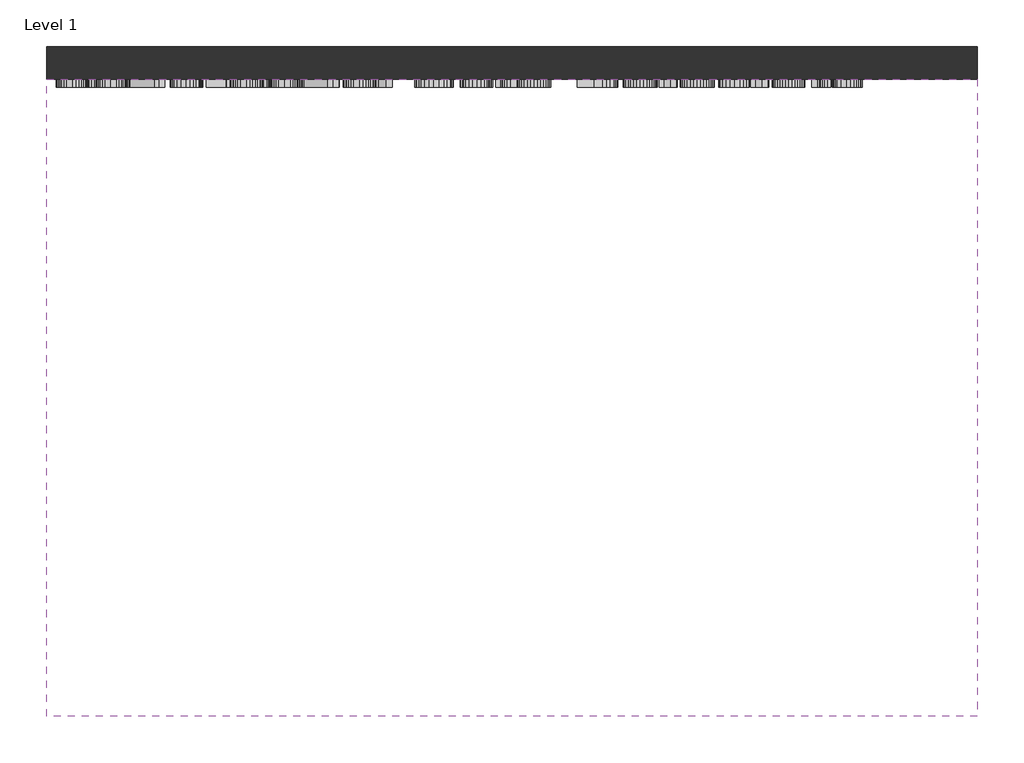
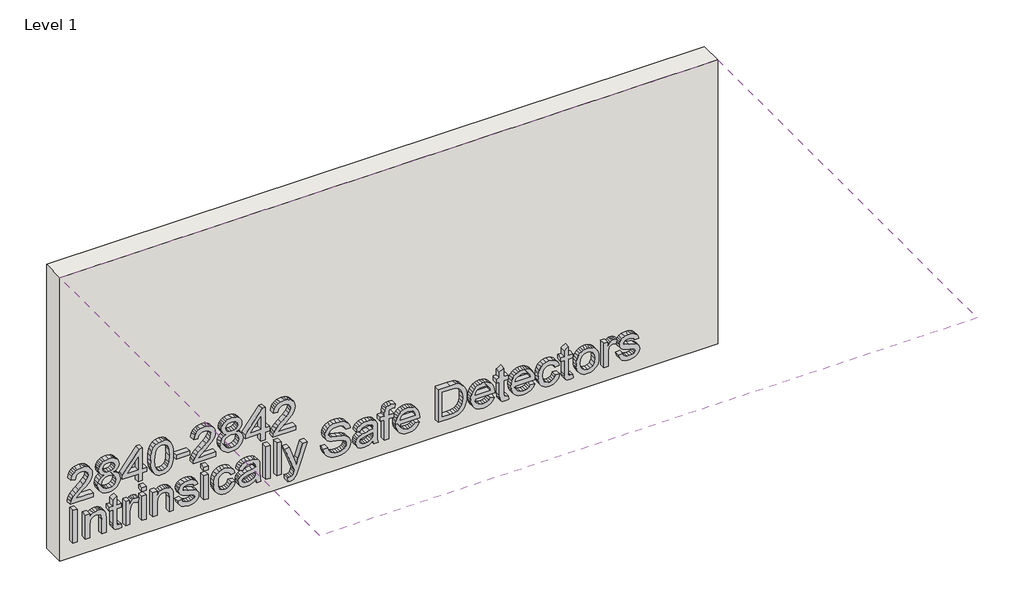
# One storey: 1 covering, 1 proxy, 1 wall.
"""IFC4 building model written with IfcOpenShell, lengths in millimetres."""

import ifcopenshell
import ifcopenshell.guid

model = None  # the IFC model being written
_history = None  # IfcOwnerHistory: only IFC2X3 demands one
_inside = {}  # id of a spatial element -> (the spatial element, [elements in it])
_under = {}  # id of a project, library or spatial element -> (it, [spatial elements below it])
_declared = {}  # id of a project -> (the project, [libraries it declares])
_typed = {}  # id of a type object -> (the type object, [elements of that type])
_made_of = {}  # id of a material, layer set ... -> (it, [elements and type objects made of it])


def new_model(schema):
    """Start an empty IFC model of exactly this schema.

    Asked for "IFC4X3", IfcOpenShell would pick the latest addendum, in which some entities
    have other attributes; the version numbers below select the first issue.
    IFC2X3 requires an IfcOwnerHistory on every rooted entity: one is made here for all.
    """
    global model, _history
    if schema == "IFC4X3":
        model = ifcopenshell.file(schema_version=(4, 3, 0, 0))
    else:
        model = ifcopenshell.file(schema=schema)
    _inside.clear()
    _under.clear()
    _declared.clear()
    _typed.clear()
    _made_of.clear()
    _history = None
    if model.schema == "IFC2X3":
        org = make("IfcOrganization", Name="unknown")
        user = make(
            "IfcPersonAndOrganization",
            ThePerson=make("IfcPerson", FamilyName="unknown"),
            TheOrganization=org,
        )
        app = make(
            "IfcApplication",
            ApplicationDeveloper=org,
            Version="unknown",
            ApplicationFullName="unknown",
            ApplicationIdentifier="unknown",
        )
        _history = make(
            "IfcOwnerHistory",
            OwningUser=user,
            OwningApplication=app,
            ChangeAction="ADDED",
            CreationDate=0,
        )
    return model


def make(cls, **values):
    """One entity of the class cls with the attributes given. An attribute that is None is left unset."""
    return model.create_entity(
        cls, **{name: value for name, value in values.items() if value is not None}
    )


def rooted(cls, **values):
    """An entity with a GlobalId (a new one), such as an element, a storey or a relation."""
    return make(cls, GlobalId=ifcopenshell.guid.new(), OwnerHistory=_history, **values)


def si_unit(unit_type, name, prefix=None):
    """IfcSIUnit, for example si_unit("LENGTHUNIT", "METRE", prefix="MILLI")."""
    return make("IfcSIUnit", UnitType=unit_type, Prefix=prefix, Name=name)


def assignment(units):
    """IfcUnitAssignment: the units of a project."""
    return None if units is None else make("IfcUnitAssignment", Units=units)


def point(xyz):
    """IfcCartesianPoint."""
    return None if xyz is None else make("IfcCartesianPoint", Coordinates=xyz)


def direction(xyz):
    """IfcDirection."""
    return None if xyz is None else make("IfcDirection", DirectionRatios=xyz)


def frame(location, z_axis=None, x_axis=None):
    """IfcAxis2Placement3D, a coordinate frame: its origin and axes. An axis left out is left unset."""
    return make(
        "IfcAxis2Placement3D",
        Location=point(location),
        Axis=direction(z_axis),
        RefDirection=direction(x_axis),
    )


def origin():
    """The frame at (0, 0, 0) with its axes left unset."""
    return frame((0.0, 0.0, 0.0))


def origin_with_axes():
    """The frame at (0, 0, 0) with the z axis (0, 0, 1) and the x axis (1, 0, 0) written out."""
    return frame((0.0, 0.0, 0.0), z_axis=(0.0, 0.0, 1.0), x_axis=(1.0, 0.0, 0.0))


def place(relative_to, where):
    """IfcLocalPlacement: puts the frame where relative to a parent placement (None: the world)."""
    return make(
        "IfcLocalPlacement", PlacementRelTo=relative_to, RelativePlacement=where
    )


def context(
    kind, dimensions, precision=None, world=None, true_north=None, identifier=None
):
    """IfcGeometricRepresentationContext, for example the 3D "Model" context."""
    return make(
        "IfcGeometricRepresentationContext",
        ContextIdentifier=identifier,
        ContextType=kind,
        CoordinateSpaceDimension=dimensions,
        Precision=precision,
        WorldCoordinateSystem=world,
        TrueNorth=true_north,
    )


def project(units=None, contexts=None):
    """IfcProject with its units and contexts."""
    return rooted(
        "IfcProject",
        Name="project",
        RepresentationContexts=contexts,
        UnitsInContext=assignment(units),
    )


def spatial(cls, under=None, at=None, **own):
    """A site, building, storey or space (cls), placed at a placement, below another one or the project."""
    s = rooted(cls, ObjectPlacement=at, **own)
    if under is not None:
        _under.setdefault(under.id(), (under, []))[1].append(s)
    return s


def polyline(points):
    """IfcPolyline through the points."""
    return make("IfcPolyline", Points=[point(p) for p in points])


def outline(outer, holes=None, kind="AREA"):
    """IfcArbitraryClosedProfileDef: a profile drawn as a closed curve; with holes, ...WithVoids."""
    if holes is None:
        return make("IfcArbitraryClosedProfileDef", ProfileType=kind, OuterCurve=outer)
    return make(
        "IfcArbitraryProfileDefWithVoids",
        ProfileType=kind,
        OuterCurve=outer,
        InnerCurves=holes,
    )


def extrude(swept, where, along, depth):
    """IfcExtrudedAreaSolid: the profile swept, set in the frame where, extruded along a direction by depth."""
    return make(
        "IfcExtrudedAreaSolid",
        SweptArea=swept,
        Position=where,
        ExtrudedDirection=direction(along),
        Depth=depth,
    )


def shape(context_of_items, identifier, shape_type, items):
    """IfcShapeRepresentation: the items that make up one representation, for example the "Body"."""
    return make(
        "IfcShapeRepresentation",
        ContextOfItems=context_of_items,
        RepresentationIdentifier=identifier,
        RepresentationType=shape_type,
        Items=items,
    )


def made_of(thing, what):
    """Note that an element or type object is made of a material, layer set ...; save() writes the relation."""
    if what is not None:
        _made_of.setdefault(what.id(), (what, []))[1].append(thing)
    return thing


def element(
    cls,
    number,
    at=None,
    inside=None,
    cuts=None,
    type_object=None,
    material=None,
    context=None,
    identifier="Body",
    shape_type=None,
    held_by="IfcProductDefinitionShape",
    body=None,
    shapes=None,
    **own,
):
    """One element of the class cls, such as IfcWall. Its Tag is "e" and its number.

    at: its placement. inside: the storey or other place that contains it. cuts: it is an
    opening in that element (IfcRelVoidsElement). A single representation is given by context,
    identifier, shape_type and body (its items); several are given by shapes. held_by: the class
    of the entity that holds the representations. save() writes the other relations.
    """
    e = rooted(cls, Tag="e%d" % number, ObjectPlacement=at, **own)
    if body is not None:
        shapes = [shape(context, identifier, shape_type, body)]
    if shapes is not None:
        e.Representation = make(held_by, Representations=shapes)
    if inside is not None:
        _inside.setdefault(inside.id(), (inside, []))[1].append(e)
    if cuts is not None:
        rooted(
            "IfcRelVoidsElement", RelatingBuildingElement=cuts, RelatedOpeningElement=e
        )
    if type_object is not None:
        _typed.setdefault(type_object.id(), (type_object, []))[1].append(e)
    return made_of(e, material)


def aggregate(whole, parts):
    """IfcRelAggregates: a whole, such as a stair, and the parts it consists of."""
    return rooted("IfcRelAggregates", RelatingObject=whole, RelatedObjects=parts)


def save(model, path):
    """Write the relations noted so far, then the file.

    IfcRelAggregates (storeys below a building ...), IfcRelContainedInSpatialStructure (elements
    in a storey), IfcRelDefinesByType, IfcRelAssociatesMaterial and IfcRelDeclares: one each for
    every whole, place, type object, material and project.
    """
    for whole, parts in _under.values():
        aggregate(whole, parts)
    for where, things in _inside.values():
        rooted(
            "IfcRelContainedInSpatialStructure",
            RelatedElements=things,
            RelatingStructure=where,
        )
    for kind, things in _typed.values():
        rooted("IfcRelDefinesByType", RelatedObjects=things, RelatingType=kind)
    for what, things in _made_of.values():
        rooted("IfcRelAssociatesMaterial", RelatedObjects=things, RelatingMaterial=what)
    for by, libraries in _declared.values():
        rooted("IfcRelDeclares", RelatingContext=by, RelatedDefinitions=libraries)
    model.write(path)


model = new_model("IFC4")

# Units and contexts
model_context = context("Model", 3, world=origin())
ifc_project = project(units=[si_unit("LENGTHUNIT", "METRE", prefix="MILLI")], contexts=[model_context])

# Site, building, storey
site = spatial("IfcSite", under=ifc_project)
building = spatial("IfcBuilding", under=site)
storey = spatial("IfcBuildingStorey", under=building, Name="Level 1", Elevation=0.0)

# Proxy
placement = place(None, origin())
element("IfcBuildingElementProxy", 1, Name="300 mm Arial 2", ObjectType="300 mm Arial 2", at=placement, inside=storey, context=model_context, shape_type="SweptSolid", body=[
    extrude(outline(polyline([(569.6588764, -4264.0457239), (569.6588764, -4412.0078624), (588.8255283, -4395.0117142), (625.0619048, -4351.6752152), (654.0785972, -4318.9797028), (676.6757488, -4297.7069265), (695.6032774, -4284.3620071), (713.6111011, -4275.4500658), (731.3154221, -4270.4284765), (749.3324428, -4268.7546134), (766.4849408, -4270.3066156), (782.184305, -4274.9626221), (796.4305352, -4282.7226329), (809.2236316, -4293.5866481), (819.7818449, -4307.1132092), (827.3234258, -4322.8608579), (831.8483743, -4340.8295941), (833.3566905, -4361.0194178), (827.9304311, -4398.9020663), (821.1476068, -4414.6359194), (811.6516528, -4428.2314584), (799.5713278, -4439.4311658), (785.0353904, -4447.9775244), (748.5966788, -4457.110195), (743.8877893, -4419.4390787), (765.5376447, -4415.3647856), (781.9267876, -4403.5833647), (792.2458775, -4385.3272207), (795.6855742, -4361.8287582), (792.1631041, -4339.4523359), (781.5956938, -4321.7664089), (765.9147237, -4310.2608995), (747.0515744, -4306.4257297), (726.0087243, -4310.4908258), (704.377263, -4322.6861139), (677.7242124, -4347.0766902), (641.6165946, -4387.7276507), (618.5595906, -4415.2268298), (597.9490018, -4434.8901225), (578.258118, -4448.4833622), (557.9602289, -4457.7723826), (531.9877601, -4461.8190845), (531.9877601, -4264.0457239), (569.6588764, -4264.0457239)])), frame((0.0, 3097.8550077, 0.0), z_axis=(0.0, 1.0, 0.0), x_axis=(0.0, 0.0, 1.0)), (0.0, 0.0, 1.0), 50.0),
    extrude(outline(polyline([(697.9761163, -4171.4866139), (687.4914794, -4194.8103324), (670.6056958, -4212.1007862), (648.0913177, -4222.8061522), (620.7208973, -4226.3746076), (601.5703402, -4224.6731534), (584.0706535, -4219.5687907), (568.2218373, -4211.0615195), (554.0238916, -4199.15134), (542.3229449, -4184.4636513), (533.9651258, -4167.623853), (528.9504343, -4148.631945), (527.2788705, -4127.4879273), (528.9435365, -4106.3439096), (533.9375346, -4087.3520016), (542.2608648, -4070.5122033), (553.913527, -4055.8245146), (568.0126044, -4043.914335), (583.6751804, -4035.4070639), (600.9012548, -4030.3027012), (619.6908277, -4028.601247), (646.0403756, -4032.0317466), (668.4351921, -4042.3232454), (686.0291485, -4059.1998319), (697.9761163, -4082.3855947), (707.881339, -4062.8602578), (721.2630466, -4049.0186977), (737.6981747, -4040.768944), (756.7636591, -4038.0190261), (772.1595206, -4039.5641304), (786.3413715, -4044.1994436), (799.3092118, -4051.9249655), (811.0630416, -4062.7406961), (820.816513, -4076.090214), (827.7832783, -4091.4170977), (833.3566905, -4128.0029621), (827.912037, -4164.3680973), (821.1062201, -4179.529434), (811.5780764, -4192.6766168), (800.0495744, -4203.2992095), (787.2426824, -4210.8867756), (773.1574005, -4215.4393153), (757.7937287, -4216.9568285), (738.0936478, -4214.1701224), (721.3734112, -4205.8100041), (707.9089301, -4191.6557443), (697.9761163, -4171.4866139)]), holes=[polyline([(756.6900827, -4179.2857122), (771.5893035, -4175.8920008), (784.2076559, -4165.7108666), (792.8160946, -4149.367709), (795.6855742, -4127.4879273), (792.7517153, -4105.7461014), (783.9501385, -4089.3753526), (770.8443425, -4079.1114449), (754.9978255, -4075.6901424), (739.7307227, -4079.0010803), (727.0387939, -4088.9338942), (718.4855375, -4105.0839138), (715.634452, -4127.0464689), (718.5039316, -4149.5332559), (727.1123703, -4165.9315958), (740.2457575, -4175.9471831), (756.6900827, -4179.2857122)]), polyline([(622.0452725, -4188.7034913), (644.0262217, -4184.7211687), (661.9972571, -4172.7742009), (673.9718161, -4153.7271106), (677.9633357, -4128.4444205), (673.9166338, -4102.5087398), (661.7765279, -4082.8270531), (643.4560046, -4070.4110357), (620.8680501, -4066.2723633), (598.6571746, -4070.282277), (580.7321244, -4082.3120183), (568.8955212, -4101.5522466), (564.9499868, -4127.1936217), (566.826185, -4143.9322525), (572.4547795, -4160.1558485), (581.5138737, -4173.7031029), (593.6815706, -4182.4127092), (622.0452725, -4188.7034913)])]), frame((0.0, 3097.8550077, 0.0), z_axis=(0.0, 1.0, 0.0), x_axis=(0.0, 0.0, 1.0)), (0.0, 0.0, 1.0), 50.0),
    extrude(outline(polyline([(531.9877601, -3873.2078922), (531.9877601, -3835.5367759), (602.6211031, -3835.5367759), (602.6211031, -3797.8656596), (640.2922194, -3797.8656596), (640.2922194, -3835.5367759), (828.647801, -3835.5367759), (828.647801, -3863.7901132), (640.2922194, -4009.7656888), (602.6211031, -4009.7656888), (602.6211031, -3873.2078922), (531.9877601, -3873.2078922)]), holes=[polyline([(640.2922194, -3873.2078922), (640.2922194, -3963.4125574), (756.6900827, -3873.2078922), (640.2922194, -3873.2078922)])]), frame((0.0, 3097.8550077, 0.0), z_axis=(0.0, 1.0, 0.0), x_axis=(0.0, 0.0, 1.0)), (0.0, 0.0, 1.0), 50.0),
    extrude(outline(polyline([(680.2442041, -3764.9034328), (640.8026557, -3763.0272347), (606.9437166, -3757.3986401), (578.6673867, -3748.0176493), (555.9736661, -3734.884262), (543.4196931, -3721.1990518), (534.4525694, -3705.1593968), (529.0722952, -3686.7652971), (527.2788705, -3666.0167525), (531.4083459, -3635.5653204), (543.7967721, -3610.8712415), (564.5821048, -3591.7689689), (593.9022998, -3578.0929557), (632.281589, -3569.8707931), (680.2442041, -3567.1300722), (720.2053858, -3568.8407235), (751.0614882, -3573.9726774), (775.360094, -3581.8085638), (795.648786, -3591.6310131), (811.7896085, -3604.6356416), (823.6446058, -3622.0180659), (830.9286693, -3642.8033986), (833.3566905, -3666.0167525), (829.2548063, -3696.3026378), (816.9491535, -3720.9415344), (796.2465942, -3740.0713982), (766.9539904, -3753.8301848), (728.4827307, -3762.1351208), (680.2442041, -3764.9034328)]), holes=[polyline([(680.3177805, -3727.2323165), (738.8110177, -3722.6705798), (759.8906561, -3716.9684089), (775.5256409, -3708.9853696), (790.6455909, -3690.0394468), (795.6855742, -3666.4582109), (789.9650092, -3641.5525999), (772.8033141, -3621.8709131), (758.4421207, -3614.4029086), (738.2408006, -3609.0686197), (680.3177805, -3604.8011885), (621.1531586, -3609.2157725), (600.8897585, -3614.7340024), (586.8389655, -3622.4595243), (570.4222315, -3642.1779993), (564.9499868, -3666.0167525), (570.4038374, -3689.8555058), (586.7653891, -3709.5739808), (600.7931895, -3717.2995027), (621.0611881, -3722.8177326), (680.3177805, -3727.2323165)])]), frame((0.0, 3097.8550077, 0.0), z_axis=(0.0, 1.0, 0.0), x_axis=(0.0, 0.0, 1.0)), (0.0, 0.0, 1.0), 50.0),
    extrude(outline(polyline([(-3425.8633861, 3097.8550077), (-3543.5856245, 3097.8550077), (-3543.5856245, 3147.8550077), (-3425.8633861, 3147.8550077), (-3425.8633861, 3097.8550077)])), frame((0.0, 0.0, 621.4566613), z_axis=(0.0, 0.0, 1.0), x_axis=(1.0, 0.0, 0.0)), (0.0, 0.0, 1.0), 37.6711163),
    extrude(outline(polyline([(569.6588764, -3199.8366883), (569.6588764, -3347.7988267), (588.8255283, -3330.8026785), (625.0619048, -3287.4661795), (654.0785972, -3254.7706672), (676.6757488, -3233.4978908), (695.6032774, -3220.1529714), (713.6111011, -3211.2410301), (731.3154221, -3206.2194409), (749.3324428, -3204.5455778), (766.4849408, -3206.09758), (782.184305, -3210.7535865), (796.4305352, -3218.5135973), (809.2236316, -3229.3776125), (819.7818449, -3242.9041736), (827.3234258, -3258.6518222), (831.8483743, -3276.6205584), (833.3566905, -3296.8103822), (827.9304311, -3334.6930306), (821.1476068, -3350.4268837), (811.6516528, -3364.0224227), (799.5713278, -3375.2221302), (785.0353904, -3383.7684888), (748.5966788, -3392.9011593), (743.8877893, -3355.230043), (765.5376447, -3351.1557499), (781.9267876, -3339.374329), (792.2458775, -3321.118185), (795.6855742, -3297.6197226), (792.1631041, -3275.2433002), (781.5956938, -3257.5573733), (765.9147237, -3246.0518639), (747.0515744, -3242.2166941), (726.0087243, -3246.2817901), (704.377263, -3258.4770783), (677.7242124, -3282.8676546), (641.6165946, -3323.518615), (618.5595906, -3351.0177942), (597.9490018, -3370.6810868), (578.258118, -3384.2743265), (557.9602289, -3393.5633469), (531.9877601, -3397.6100489), (531.9877601, -3199.8366883), (569.6588764, -3199.8366883)])), frame((0.0, 3097.8550077, 0.0), z_axis=(0.0, 1.0, 0.0), x_axis=(0.0, 0.0, 1.0)), (0.0, 0.0, 1.0), 50.0),
    extrude(outline(polyline([(697.9761163, -3107.2775783), (687.4914794, -3130.6012968), (670.6056958, -3147.8917505), (648.0913177, -3158.5971166), (620.7208973, -3162.165572), (601.5703402, -3160.4641177), (584.0706535, -3155.359755), (568.2218373, -3146.8524839), (554.0238916, -3134.9423043), (542.3229449, -3120.2546156), (533.9651258, -3103.4148173), (528.9504343, -3084.4229093), (527.2788705, -3063.2788916), (528.9435365, -3042.134874), (533.9375346, -3023.142966), (542.2608648, -3006.3031676), (553.913527, -2991.615479), (568.0126044, -2979.7052994), (583.6751804, -2971.1980283), (600.9012548, -2966.0936656), (619.6908277, -2964.3922113), (646.0403756, -2967.8227109), (668.4351921, -2978.1142098), (686.0291485, -2994.9907963), (697.9761163, -3018.176559), (707.881339, -2998.6512221), (721.2630466, -2984.8096621), (737.6981747, -2976.5599083), (756.7636591, -2973.8099904), (772.1595206, -2975.3550948), (786.3413715, -2979.9904079), (799.3092118, -2987.7159298), (811.0630416, -2998.5316605), (820.816513, -3011.8811784), (827.7832783, -3027.208062), (833.3566905, -3063.7939264), (827.912037, -3100.1590617), (821.1062201, -3115.3203984), (811.5780764, -3128.4675812), (800.0495744, -3139.0901738), (787.2426824, -3146.67774), (773.1574005, -3151.2302796), (757.7937287, -3152.7477929), (738.0936478, -3149.9610868), (721.3734112, -3141.6009684), (707.9089301, -3127.4467087), (697.9761163, -3107.2775783)]), holes=[polyline([(756.6900827, -3115.0766766), (771.5893035, -3111.6829652), (784.2076559, -3101.5018309), (792.8160946, -3085.1586733), (795.6855742, -3063.2788916), (792.7517153, -3041.5370657), (783.9501385, -3025.1663169), (770.8443425, -3014.9024093), (754.9978255, -3011.4811067), (739.7307227, -3014.7920447), (727.0387939, -3024.7248586), (718.4855375, -3040.8748781), (715.634452, -3062.8374333), (718.5039316, -3085.3242202), (727.1123703, -3101.7225601), (740.2457575, -3111.7381475), (756.6900827, -3115.0766766)]), polyline([(622.0452725, -3124.4944556), (644.0262217, -3120.512133), (661.9972571, -3108.5651653), (673.9718161, -3089.518075), (677.9633357, -3064.2353848), (673.9166338, -3038.2997042), (661.7765279, -3018.6180174), (643.4560046, -3006.2020001), (620.8680501, -3002.0633276), (598.6571746, -3006.0732414), (580.7321244, -3018.1029826), (568.8955212, -3037.343211), (564.9499868, -3062.9845861), (566.826185, -3079.7232168), (572.4547795, -3095.9468128), (581.5138737, -3109.4940673), (593.6815706, -3118.2036735), (622.0452725, -3124.4944556)])]), frame((0.0, 3097.8550077, 0.0), z_axis=(0.0, 1.0, 0.0), x_axis=(0.0, 0.0, 1.0)), (0.0, 0.0, 1.0), 50.0),
    extrude(outline(polyline([(531.9877601, -2808.9988566), (531.9877601, -2771.3277403), (602.6211031, -2771.3277403), (602.6211031, -2733.656624), (640.2922194, -2733.656624), (640.2922194, -2771.3277403), (828.647801, -2771.3277403), (828.647801, -2799.5810775), (640.2922194, -2945.5566532), (602.6211031, -2945.5566532), (602.6211031, -2808.9988566), (531.9877601, -2808.9988566)]), holes=[polyline([(640.2922194, -2808.9988566), (640.2922194, -2899.2035218), (756.6900827, -2808.9988566), (640.2922194, -2808.9988566)])]), frame((0.0, 3097.8550077, 0.0), z_axis=(0.0, 1.0, 0.0), x_axis=(0.0, 0.0, 1.0)), (0.0, 0.0, 1.0), 50.0),
    extrude(outline(polyline([(569.6588764, -2507.6299261), (569.6588764, -2655.5920646), (588.8255283, -2638.5959164), (625.0619048, -2595.2594174), (654.0785972, -2562.5639051), (676.6757488, -2541.2911287), (695.6032774, -2527.9462093), (713.6111011, -2519.034268), (731.3154221, -2514.0126787), (749.3324428, -2512.3388157), (766.4849408, -2513.8908178), (782.184305, -2518.5468243), (796.4305352, -2526.3068352), (809.2236316, -2537.1708503), (819.7818449, -2550.6974115), (827.3234258, -2566.4450601), (831.8483743, -2584.4137963), (833.3566905, -2604.6036201), (827.9304311, -2642.4862685), (821.1476068, -2658.2201216), (811.6516528, -2671.8156606), (799.5713278, -2683.0153681), (785.0353904, -2691.5617267), (748.5966788, -2700.6943972), (743.8877893, -2663.0232809), (765.5376447, -2658.9489878), (781.9267876, -2647.1675669), (792.2458775, -2628.9114229), (795.6855742, -2605.4129604), (792.1631041, -2583.0365381), (781.5956938, -2565.3506112), (765.9147237, -2553.8451018), (747.0515744, -2550.009932), (726.0087243, -2554.075028), (704.377263, -2566.2703162), (677.7242124, -2590.6608924), (641.6165946, -2631.3118529), (618.5595906, -2658.811032), (597.9490018, -2678.4743247), (578.258118, -2692.0675644), (557.9602289, -2701.3565848), (531.9877601, -2705.4032867), (531.9877601, -2507.6299261), (569.6588764, -2507.6299261)])), frame((0.0, 3097.8550077, 0.0), z_axis=(0.0, 1.0, 0.0), x_axis=(0.0, 0.0, 1.0)), (0.0, 0.0, 1.0), 50.0),
    extrude(outline(polyline([(-4400.6035205, 3097.8550077), (-4438.2746368, 3097.8550077), (-4438.2746368, 3147.8550077), (-4400.6035205, 3147.8550077), (-4400.6035205, 3097.8550077)])), frame((0.0, 0.0, 166.0633065), z_axis=(0.0, 0.0, 1.0), x_axis=(1.0, 0.0, 0.0)), (0.0, 0.0, 1.0), 301.3689304),
    extrude(outline(polyline([(166.0633065, -4329.9701774), (166.0633065, -4292.2990611), (283.4912394, -4292.2990611), (318.2009056, -4288.0040388), (330.5755362, -4282.635261), (339.6300318, -4275.118972), (350.721674, -4256.311005), (354.418888, -4234.2472823), (352.7726161, -4220.3505399), (347.8338003, -4208.385178), (340.1358696, -4199.0501724), (330.2122528, -4193.0444988), (296.882144, -4188.7034913), (166.0633065, -4188.7034913), (166.0633065, -4151.032375), (301.9589155, -4151.032375), (338.3792331, -4153.0189378), (366.0807473, -4164.312915), (376.6205665, -4174.4112758), (384.9163054, -4188.5931267), (390.2965796, -4205.5984719), (392.0900044, -4224.1673156), (389.8643183, -4245.1457864), (383.1872601, -4263.4939009), (372.0588297, -4279.2116592), (356.4790272, -4292.2990611), (387.3811148, -4292.2990611), (387.3811148, -4329.9701774), (166.0633065, -4329.9701774)])), frame((0.0, 3097.8550077, 0.0), z_axis=(0.0, 1.0, 0.0), x_axis=(0.0, 0.0, 1.0)), (0.0, 0.0, 1.0), 50.0),
    extrude(outline(polyline([(197.4804289, -4019.1834679), (199.0255333, -4035.5910049), (201.563919, -4048.4300865), (208.4433124, -4054.8680214), (227.8674817, -4056.8545842), (349.7099985, -4056.8545842), (349.7099985, -4019.1834679), (387.3811148, -4019.1834679), (387.3811148, -4056.8545842), (463.3119586, -4056.8545842), (441.1654625, -4094.5257005), (387.3811148, -4094.5257005), (387.3811148, -4122.7790378), (349.7099985, -4122.7790378), (349.7099985, -4094.5257005), (226.7638357, -4094.5257005), (199.7796914, -4093.3852663), (184.0159479, -4089.9639638), (174.8372921, -4083.7467581), (167.6084109, -4074.2186144), (162.9179155, -4060.7357393), (161.354417, -4042.6543392), (164.9596605, -4014.4745784), (197.4804289, -4019.1834679)])), frame((0.0, 3097.8550077, 0.0), z_axis=(0.0, 1.0, 0.0), x_axis=(0.0, 0.0, 1.0)), (0.0, 0.0, 1.0), 50.0),
    extrude(outline(polyline([(166.0633065, -3981.5123516), (166.0633065, -3943.8412353), (282.3875934, -3943.8412353), (305.3434299, -3942.314525), (326.38628, -3937.7343942), (338.1217157, -3932.2805436), (346.9876717, -3924.1595486), (352.561084, -3914.107173), (354.418888, -3902.859181), (352.4875076, -3889.6154292), (346.6933661, -3876.3716774), (380.4649333, -3863.7901132), (389.1837366, -3882.8464005), (392.0900044, -3901.6083823), (390.2689885, -3913.8956409), (384.8059408, -3925.1528299), (373.6223282, -3936.3732308), (354.6396172, -3948.5501248), (387.3811148, -3948.5501248), (387.3811148, -3981.5123516), (166.0633065, -3981.5123516)])), frame((0.0, 3097.8550077, 0.0), z_axis=(0.0, 1.0, 0.0), x_axis=(0.0, 0.0, 1.0)), (0.0, 0.0, 1.0), 50.0),
    extrude(outline(polyline([(-3802.5745492, 3097.8550077), (-3840.2456655, 3097.8550077), (-3840.2456655, 3147.8550077), (-3802.5745492, 3147.8550077), (-3802.5745492, 3097.8550077)])), frame((0.0, 0.0, 429.7611207), z_axis=(0.0, 0.0, 1.0), x_axis=(1.0, 0.0, 0.0)), (0.0, 0.0, 1.0), 37.6711163),
    extrude(outline(polyline([(-3802.5745492, 3097.8550077), (-3840.2456655, 3097.8550077), (-3840.2456655, 3147.8550077), (-3802.5745492, 3147.8550077), (-3802.5745492, 3097.8550077)])), frame((0.0, 0.0, 166.0633065), z_axis=(0.0, 0.0, 1.0), x_axis=(1.0, 0.0, 0.0)), (0.0, 0.0, 1.0), 221.3178083),
    extrude(outline(polyline([(166.0633065, -3746.0678747), (166.0633065, -3708.3967584), (283.4912394, -3708.3967584), (318.2009056, -3704.1017361), (330.5755362, -3698.7329582), (339.6300318, -3691.2166692), (350.721674, -3672.4087022), (354.418888, -3650.3449796), (352.7726161, -3636.4482372), (347.8338003, -3624.4828753), (340.1358696, -3615.1478697), (330.2122528, -3609.1421961), (296.882144, -3604.8011885), (166.0633065, -3604.8011885), (166.0633065, -3567.1300722), (301.9589155, -3567.1300722), (338.3792331, -3569.116635), (366.0807473, -3580.4106123), (376.6205665, -3590.508973), (384.9163054, -3604.6908239), (390.2965796, -3621.6961692), (392.0900044, -3640.2650129), (389.8643183, -3661.2434837), (383.1872601, -3679.5915982), (372.0588297, -3695.3093564), (356.4790272, -3708.3967584), (387.3811148, -3708.3967584), (387.3811148, -3746.0678747), (166.0633065, -3746.0678747)])), frame((0.0, 3097.8550077, 0.0), z_axis=(0.0, 1.0, 0.0), x_axis=(0.0, 0.0, 1.0)), (0.0, 0.0, 1.0), 50.0),
    extrude(outline(polyline([(231.9877601, -3529.4589559), (201.2696135, -3519.1214719), (179.1599055, -3500.6170075), (165.8057891, -3472.8970992), (161.354417, -3434.9132832), (163.6628765, -3410.2284013), (170.5882551, -3388.2658462), (181.7442766, -3370.0832786), (196.7446649, -3356.7383592), (214.2190597, -3348.5437878), (232.7971004, -3345.8122639), (250.7681359, -3348.1391176), (265.538598, -3355.1196784), (277.145275, -3366.1929265), (285.6249549, -3380.7978417), (303.3568671, -3436.0905056), (311.3766946, -3468.5376975), (319.6908277, -3482.5907897), (330.6537112, -3487.0789501), (339.5564554, -3484.3750174), (347.2819773, -3476.2632194), (352.6346604, -3461.8422452), (354.418888, -3440.2107839), (352.5518869, -3421.2188759), (346.9508835, -3407.0646161), (338.0205481, -3397.6560341), (326.1655508, -3392.9011593), (330.8744404, -3355.230043), (349.9215307, -3360.2332382), (364.6827957, -3368.1794892), (375.9951671, -3380.1724423), (384.6955762, -3397.3157433), (390.2413973, -3418.6345049), (392.0900044, -3443.1538399), (387.4914794, -3475.5642436), (376.344655, -3499.5133615), (366.7153437, -3509.9796043), (354.8971346, -3517.9810377), (341.4234566, -3523.0578092), (326.8277384, -3524.7500664), (310.9168421, -3522.643942), (296.4406856, -3516.3255687), (284.1810181, -3505.9237053), (274.9195889, -3491.5671104), (256.4887009, -3434.8397068), (245.7465467, -3396.0649445), (238.425695, -3386.6287713), (228.8239749, -3383.4833802), (217.603574, -3386.6103772), (207.9282776, -3395.9913681), (201.2512194, -3411.8470821), (199.0255333, -3434.3982484), (201.4535545, -3457.2253262), (208.737618, -3474.3502331), (220.5834182, -3485.8465454), (236.6966496, -3491.7878396), (231.9877601, -3529.4589559)])), frame((0.0, 3097.8550077, 0.0), z_axis=(0.0, 1.0, 0.0), x_axis=(0.0, 0.0, 1.0)), (0.0, 0.0, 1.0), 50.0),
    extrude(outline(polyline([(-3265.7611418, 3097.8550077), (-3303.4322581, 3097.8550077), (-3303.4322581, 3147.8550077), (-3265.7611418, 3147.8550077), (-3265.7611418, 3097.8550077)])), frame((0.0, 0.0, 429.7611207), z_axis=(0.0, 0.0, 1.0), x_axis=(1.0, 0.0, 0.0)), (0.0, 0.0, 1.0), 37.6711163),
    extrude(outline(polyline([(-3265.7611418, 3097.8550077), (-3303.4322581, 3097.8550077), (-3303.4322581, 3147.8550077), (-3265.7611418, 3147.8550077), (-3265.7611418, 3097.8550077)])), frame((0.0, 0.0, 166.0633065), z_axis=(0.0, 0.0, 1.0), x_axis=(1.0, 0.0, 0.0)), (0.0, 0.0, 1.0), 221.3178083),
    extrude(outline(polyline([(246.1144287, -3067.9877812), (225.2371254, -3074.4165191), (210.5770279, -3086.0507871), (201.9134069, -3102.0444569), (199.0255333, -3121.5513997), (203.6516494, -3145.583291), (217.5299976, -3164.5568049), (241.6354654, -3176.8900488), (276.9429399, -3181.0011301), (311.7813648, -3176.7980783), (335.8040591, -3164.1889229), (349.7651808, -3144.8659211), (354.418888, -3120.5213301), (352.0552462, -3104.0310197), (344.9643208, -3090.1710655), (333.1828999, -3079.5300788), (316.7477717, -3072.6966707), (321.4566613, -3035.0255544), (351.4390439, -3045.280265), (373.6959046, -3063.536409), (387.4914794, -3088.9846461), (392.0900044, -3120.8156357), (388.7422782, -3147.4594892), (378.6990997, -3172.0615976), (361.9512719, -3192.6262012), (338.4895977, -3207.15754), (309.4361171, -3215.7935698), (275.9128703, -3218.6722464), (249.8553287, -3216.986887), (227.0121561, -3211.9308088), (207.3833524, -3203.5040119), (190.9689176, -3191.7064962), (178.0125736, -3177.1314714), (168.7580421, -3160.3721472), (163.2053233, -3141.4285237), (161.354417, -3120.3006009), (166.6611148, -3087.6694679), (182.5812081, -3060.5565649), (207.9006864, -3040.8196958), (241.4055391, -3030.3166649), (246.1144287, -3067.9877812)])), frame((0.0, 3097.8550077, 0.0), z_axis=(0.0, 1.0, 0.0), x_axis=(0.0, 0.0, 1.0)), (0.0, 0.0, 1.0), 50.0),
    extrude(outline(polyline([(194.3166437, -2856.087752), (166.0633065, -2846.6699729), (166.0633065, -2808.9988566), (197.7379463, -2816.5036493), (263.1841532, -2818.4166357), (310.0523194, -2818.4166357), (343.0145462, -2820.2560456), (357.1320178, -2824.7993883), (368.5823449, -2831.8075403), (377.8437741, -2842.3749506), (385.394552, -2857.5960681), (390.4161413, -2877.7835926), (392.0900044, -2903.2502237), (390.1954121, -2929.8021067), (384.5116353, -2952.9510813), (375.3329795, -2971.8786099), (362.9537503, -2985.7661553), (346.7669425, -2995.5242252), (326.1655508, -3002.0633276), (321.4566613, -2964.3922113), (337.1192372, -2956.9058127), (347.1716127, -2946.2188408), (352.6070692, -2930.5470678), (354.418888, -2908.1062661), (351.6965613, -2883.8628426), (343.529581, -2866.4620242), (332.5299093, -2858.68132), (315.7177022, -2856.087752), (307.3299927, -2856.3084812), (300.3402348, -2883.1270786), (294.3805464, -2921.6443235), (288.7151637, -2954.2386683), (276.3543287, -2980.6158073), (266.8629732, -2991.2200058), (254.7228674, -2999.5617301), (240.5410164, -3004.9695954), (224.9244257, -3006.7722172), (199.5957504, -3001.9989483), (179.2334819, -2987.6791416), (165.8241832, -2964.4565907), (161.354417, -2932.975089), (163.2122211, -2912.1069828), (168.7856333, -2892.6184341), (178.883994, -2874.0863786), (194.3166437, -2856.087752)]), holes=[polyline([(269.6588764, -2856.087752), (258.9902985, -2856.3084812), (242.0677267, -2857.7984032), (229.8540445, -2862.2681695), (217.9990472, -2872.3481362), (208.0386422, -2886.8426868), (201.2788105, -2904.7217517), (199.0255333, -2924.9552615), (201.0672784, -2944.03914), (207.1925136, -2957.8807), (216.3711694, -2966.2960007), (227.5731761, -2969.1011009), (242.0677267, -2963.9507529), (252.0005406, -2949.2722613), (258.1073817, -2916.8618576), (269.6588764, -2856.087752)])]), frame((0.0, 3097.8550077, 0.0), z_axis=(0.0, 1.0, 0.0), x_axis=(0.0, 0.0, 1.0)), (0.0, 0.0, 1.0), 50.0),
    extrude(outline(polyline([(-2728.9477344, 3097.8550077), (-2766.6188507, 3097.8550077), (-2766.6188507, 3147.8550077), (-2728.9477344, 3147.8550077), (-2728.9477344, 3097.8550077)])), frame((0.0, 0.0, 166.0633065), z_axis=(0.0, 0.0, 1.0), x_axis=(1.0, 0.0, 0.0)), (0.0, 0.0, 1.0), 301.3689304),
    extrude(outline(polyline([(-2634.7699437, 3097.8550077), (-2672.44106, 3097.8550077), (-2672.44106, 3147.8550077), (-2634.7699437, 3147.8550077), (-2634.7699437, 3097.8550077)])), frame((0.0, 0.0, 166.0633065), z_axis=(0.0, 0.0, 1.0), x_axis=(1.0, 0.0, 0.0)), (0.0, 0.0, 1.0), 301.3689304),
    extrude(outline(polyline([(81.3032948, -2578.2632692), (76.5944053, -2555.2338563), (78.7097268, -2539.3597482), (85.0556912, -2525.8768731), (95.9266041, -2514.2701961), (111.6167712, -2504.0246826), (160.7658058, -2484.011902), (387.3811148, -2406.9774123), (387.3811148, -2446.4143621), (258.7695693, -2490.0451668), (215.3594939, -2504.834023), (264.5085284, -2519.6228792), (387.3811148, -2562.0764614), (387.3811148, -2601.8077169), (166.8726469, -2521.7565947), (157.7491734, -2524.6996507), (130.010871, -2535.0003466), (118.4225881, -2545.96323), (114.2655216, -2563.842295), (117.5764596, -2582.9721587), (81.3032948, -2578.2632692)])), frame((0.0, 3097.8550077, 0.0), z_axis=(0.0, 1.0, 0.0), x_axis=(0.0, 0.0, 1.0)), (0.0, 0.0, 1.0), 50.0),
    extrude(outline(polyline([(269.6588764, -2267.4765597), (239.2350354, -2263.0067934), (212.1221323, -2251.2161755), (189.8652716, -2232.8496669), (174.0095576, -2208.6522287), (164.5182021, -2178.2743729), (161.354417, -2141.3666117), (164.2882759, -2111.3014557), (173.0898526, -2084.3816907), (187.179733, -2061.9960713), (205.978503, -2045.533352), (227.8214965, -2035.4074001), (251.0440474, -2032.0320828), (273.7607606, -2034.9659417), (293.6447824, -2043.7675184), (310.5121719, -2058.7495127), (324.178988, -2080.2246241), (332.9897618, -2105.3509644), (343.0881226, -2146.8848417), (353.7199123, -2187.1311319), (364.1309727, -2208.3947113), (375.7744379, -2217.389426), (390.2505944, -2220.3876643), (407.2283485, -2216.1570214), (421.520564, -2203.4650925), (431.2326486, -2181.5209315), (434.4700102, -2149.533592), (431.1958604, -2118.2820165), (421.3734112, -2095.7492443), (405.1498152, -2081.3282701), (382.6722253, -2074.4120886), (382.6722253, -2036.7409723), (407.6330186, -2040.9900093), (429.8346971, -2051.6769813), (448.1368263, -2068.5627649), (461.3989722, -2091.4082368), (469.4555879, -2119.2201156), (472.1411265, -2151.00512), (469.5751496, -2180.3437091), (461.8772188, -2206.8496069), (449.2220782, -2228.9317236), (431.7844716, -2244.9989698), (411.2106711, -2254.7938279), (389.1469484, -2258.0587806), (369.4100793, -2255.4192273), (351.6965613, -2247.5005673), (336.337488, -2234.2108303), (323.6639532, -2215.4580456), (314.6048591, -2192.4194356), (305.0859125, -2156.4129853), (290.7017265, -2101.5617799), (282.8934311, -2085.4853367), (273.5952137, -2075.957193), (262.6967096, -2071.2666976), (250.0875542, -2069.7031991), (237.147305, -2071.7909294), (224.8140611, -2078.0541204), (214.0719069, -2088.5847425), (205.9049266, -2103.4747662), (200.7453816, -2121.8504719), (199.0255333, -2142.8381397), (201.2972046, -2166.676893), (208.1122186, -2188.0140487), (218.6152495, -2205.4700494), (231.9509719, -2217.6653375), (248.753982, -2225.4828299), (269.6588764, -2229.8054434), (269.6588764, -2267.4765597)])), frame((0.0, 3097.8550077, 0.0), z_axis=(0.0, 1.0, 0.0), x_axis=(0.0, 0.0, 1.0)), (0.0, 0.0, 1.0), 50.0),
    extrude(outline(polyline([(194.3166437, -1838.9676117), (166.0633065, -1829.5498326), (166.0633065, -1791.8787163), (197.7379463, -1799.383509), (263.1841532, -1801.2964954), (310.0523194, -1801.2964954), (343.0145462, -1803.1359054), (357.1320178, -1807.679248), (368.5823449, -1814.6874), (377.8437741, -1825.2548103), (385.394552, -1840.4759279), (390.4161413, -1860.6634524), (392.0900044, -1886.1300835), (390.1954121, -1912.6819665), (384.5116353, -1935.830941), (375.3329795, -1954.7584697), (362.9537503, -1968.646015), (346.7669425, -1978.4040849), (326.1655508, -1984.9431874), (321.4566613, -1947.2720711), (337.1192372, -1939.7856725), (347.1716127, -1929.0987005), (352.6070692, -1913.4269275), (354.418888, -1890.9861258), (351.6965613, -1866.7427023), (343.529581, -1849.341884), (332.5299093, -1841.5611798), (315.7177022, -1838.9676117), (307.3299927, -1839.1883409), (300.3402348, -1866.0069383), (294.3805464, -1904.5241832), (288.7151637, -1937.118528), (276.3543287, -1963.4956671), (266.8629732, -1974.0998656), (254.7228674, -1982.4415898), (240.5410164, -1987.8494551), (224.9244257, -1989.6520769), (199.5957504, -1984.878808), (179.2334819, -1970.5590014), (165.8241832, -1947.3364504), (161.354417, -1915.8549487), (163.2122211, -1894.9868425), (168.7856333, -1875.4982938), (178.883994, -1856.9662383), (194.3166437, -1838.9676117)]), holes=[polyline([(269.6588764, -1838.9676117), (258.9902985, -1839.1883409), (242.0677267, -1840.678263), (229.8540445, -1845.1480292), (217.9990472, -1855.2279959), (208.0386422, -1869.7225465), (201.2788105, -1887.6016115), (199.0255333, -1907.8351212), (201.0672784, -1926.9189997), (207.1925136, -1940.7605598), (216.3711694, -1949.1758604), (227.5731761, -1951.9809606), (242.0677267, -1946.8306127), (252.0005406, -1932.1521211), (258.1073817, -1899.7417173), (269.6588764, -1838.9676117)])]), frame((0.0, 3097.8550077, 0.0), z_axis=(0.0, 1.0, 0.0), x_axis=(0.0, 0.0, 1.0)), (0.0, 0.0, 1.0), 50.0),
    extrude(outline(polyline([(166.0633065, -1740.0809314), (166.0633065, -1702.4098151), (349.7099985, -1702.4098151), (349.7099985, -1660.0298092), (387.3811148, -1660.0298092), (387.3811148, -1702.4098151), (404.8922978, -1702.4098151), (419.2580897, -1700.6715727), (428.2160163, -1695.4568454), (432.9065117, -1686.0482634), (434.4700102, -1671.7284567), (432.7041766, -1650.023419), (468.0208482, -1644.505189), (472.1411265, -1678.8653674), (469.9890168, -1700.4600405), (463.5326878, -1716.8307893), (453.618268, -1728.5294367), (441.0918861, -1736.1078058), (409.6747637, -1740.0809314), (387.3811148, -1740.0809314), (387.3811148, -1773.0431582), (349.7099985, -1773.0431582), (349.7099985, -1740.0809314), (166.0633065, -1740.0809314)])), frame((0.0, 3097.8550077, 0.0), z_axis=(0.0, 1.0, 0.0), x_axis=(0.0, 0.0, 1.0)), (0.0, 0.0, 1.0), 50.0),
    extrude(outline(polyline([(231.9877601, -1472.1156861), (217.1069333, -1482.6738994), (206.898208, -1496.3958978), (200.993702, -1513.2816814), (199.0255333, -1533.3312501), (203.2745703, -1559.9934977), (216.0216815, -1581.8548853), (236.7518319, -1597.0024264), (264.9499868, -1603.5231348), (264.9499868, -1434.2238406), (275.1035299, -1434.0031114), (301.3565088, -1435.7896383), (324.4916877, -1441.1492192), (344.5090668, -1450.0818539), (361.408646, -1462.5875424), (374.8317403, -1477.9075283), (384.4196648, -1495.2830548), (390.1724195, -1514.7141219), (392.0900044, -1536.2007297), (390.1678209, -1558.4024081), (384.4012707, -1578.4335827), (374.7903535, -1596.2942536), (361.3350696, -1611.9844207), (344.3987022, -1624.7637215), (324.3445349, -1633.8917935), (301.1725678, -1639.3686367), (274.8828007, -1641.1942511), (249.455257, -1639.3870308), (227.0305502, -1633.9653699), (207.6086801, -1624.9292684), (191.1896468, -1612.2787263), (178.1367337, -1596.5471725), (168.8132244, -1578.2680358), (163.2191188, -1557.4413164), (161.354417, -1534.0670141), (165.6770304, -1498.4100517), (178.6448708, -1469.7244531), (199.4485976, -1448.488465), (227.2788705, -1435.1803338), (231.9877601, -1472.1156861)]), holes=[polyline([(302.6211031, -1603.5231348), (323.8570913, -1597.3335202), (340.3290076, -1582.7378021), (350.8964179, -1561.7409372), (354.418888, -1536.3478825), (350.0043041, -1508.7199446), (336.7605523, -1486.7573895), (322.5235191, -1476.7693933), (302.6211031, -1471.6742277), (302.6211031, -1603.5231348)])]), frame((0.0, 3097.8550077, 0.0), z_axis=(0.0, 1.0, 0.0), x_axis=(0.0, 0.0, 1.0)), (0.0, 0.0, 1.0), 50.0),
    extrude(outline(polyline([(166.0633065, -1273.9008671), (166.0633065, -1164.9342201), (171.2136544, -1116.4841614), (177.5688159, -1096.9404304), (186.3336044, -1080.468514), (198.1518135, -1066.1211162), (213.6672367, -1052.9509408), (233.3213323, -1041.5098108), (257.5555587, -1032.3495491), (286.0204281, -1026.3346785), (318.3664525, -1024.3297216), (356.442239, -1027.2911716), (390.0298652, -1036.1755218), (418.577508, -1051.0195603), (441.5333445, -1071.8600754), (454.721914, -1092.1303733), (463.0912294, -1116.1530676), (467.432237, -1169.9374153), (467.432237, -1273.9008671), (166.0633065, -1273.9008671)]), holes=[polyline([(203.7344228, -1236.2297508), (429.7611207, -1236.2297508), (429.7611207, -1170.5996029), (428.2528045, -1138.8513867), (423.7278559, -1117.1831372), (411.1462917, -1095.8919667), (390.3241708, -1078.0772811), (360.0106944, -1066.0199487), (318.9550637, -1062.0008379), (287.9702027, -1064.05178), (261.9701427, -1070.2046064), (240.8629132, -1080.0362527), (224.5565437, -1093.1236547), (215.74577, -1105.3005487), (209.1790763, -1121.0826863), (205.0955862, -1141.9967777), (203.7344228, -1169.5695333), (203.7344228, -1236.2297508)])]), frame((0.0, 3097.8550077, 0.0), z_axis=(0.0, 1.0, 0.0), x_axis=(0.0, 0.0, 1.0)), (0.0, 0.0, 1.0), 50.0),
    extrude(outline(polyline([(231.9877601, -822.2889298), (217.1069333, -832.8471431), (206.898208, -846.5691415), (200.993702, -863.4549251), (199.0255333, -883.5044938), (203.2745703, -910.1667414), (216.0216815, -932.028129), (236.7518319, -947.1756701), (264.9499868, -953.6963785), (264.9499868, -784.3970843), (275.1035299, -784.1763551), (301.3565088, -785.9628821), (324.4916877, -791.3224629), (344.5090668, -800.2550976), (361.408646, -812.7607862), (374.8317403, -828.080772), (384.4196648, -845.4562985), (390.1724195, -864.8873656), (392.0900044, -886.3739734), (390.1678209, -908.5756518), (384.4012707, -928.6068264), (374.7903535, -946.4674973), (361.3350696, -962.1576644), (344.3987022, -974.9369652), (324.3445349, -984.0650372), (301.1725678, -989.5418804), (274.8828007, -991.3674948), (249.455257, -989.5602745), (227.0305502, -984.1386136), (207.6086801, -975.1025121), (191.1896468, -962.45197), (178.1367337, -946.7204162), (168.8132244, -928.4412795), (163.2191188, -907.6145601), (161.354417, -884.2402578), (165.6770304, -848.5832954), (178.6448708, -819.8976969), (199.4485976, -798.6617087), (227.2788705, -785.3535775), (231.9877601, -822.2889298)]), holes=[polyline([(302.6211031, -953.6963785), (323.8570913, -947.5067639), (340.3290076, -932.9110458), (350.8964179, -911.9141809), (354.418888, -886.5211262), (350.0043041, -858.8931883), (336.7605523, -836.9306332), (322.5235191, -826.9426371), (302.6211031, -821.8474714), (302.6211031, -953.6963785)])]), frame((0.0, 3097.8550077, 0.0), z_axis=(0.0, 1.0, 0.0), x_axis=(0.0, 0.0, 1.0)), (0.0, 0.0, 1.0), 50.0),
    extrude(outline(polyline([(197.4804289, -666.4541167), (199.0255333, -682.8616537), (201.563919, -695.7007353), (208.4433124, -702.1386702), (227.8674817, -704.125233), (349.7099985, -704.125233), (349.7099985, -666.4541167), (387.3811148, -666.4541167), (387.3811148, -704.125233), (463.3119586, -704.125233), (441.1654625, -741.7963493), (387.3811148, -741.7963493), (387.3811148, -770.0496865), (349.7099985, -770.0496865), (349.7099985, -741.7963493), (226.7638357, -741.7963493), (199.7796914, -740.6559151), (184.0159479, -737.2346125), (174.8372921, -731.0174068), (167.6084109, -721.4892631), (162.9179155, -708.006388), (161.354417, -689.924988), (164.9596605, -661.7452271), (197.4804289, -666.4541167)])), frame((0.0, 3097.8550077, 0.0), z_axis=(0.0, 1.0, 0.0), x_axis=(0.0, 0.0, 1.0)), (0.0, 0.0, 1.0), 50.0),
    extrude(outline(polyline([(231.9877601, -473.831104), (217.1069333, -484.3893173), (206.898208, -498.1113157), (200.993702, -514.9970993), (199.0255333, -535.046668), (203.2745703, -561.7089156), (216.0216815, -583.5703032), (236.7518319, -598.7178443), (264.9499868, -605.2385527), (264.9499868, -435.9392585), (275.1035299, -435.7185293), (301.3565088, -437.5050562), (324.4916877, -442.8646371), (344.5090668, -451.7972717), (361.408646, -464.3029603), (374.8317403, -479.6229462), (384.4196648, -496.9984726), (390.1724195, -516.4295398), (392.0900044, -537.9161476), (390.1678209, -560.117826), (384.4012707, -580.1490006), (374.7903535, -598.0096715), (361.3350696, -613.6998386), (344.3987022, -626.4791394), (324.3445349, -635.6072114), (301.1725678, -641.0840546), (274.8828007, -642.909669), (249.455257, -641.1024487), (227.0305502, -635.6807878), (207.6086801, -626.6446863), (191.1896468, -613.9941442), (178.1367337, -598.2625903), (168.8132244, -579.9834537), (163.2191188, -559.1567343), (161.354417, -535.782432), (165.6770304, -500.1254696), (178.6448708, -471.439871), (199.4485976, -450.2038829), (227.2788705, -436.8957517), (231.9877601, -473.831104)]), holes=[polyline([(302.6211031, -605.2385527), (323.8570913, -599.0489381), (340.3290076, -584.4532199), (350.8964179, -563.4563551), (354.418888, -538.0633004), (350.0043041, -510.4353625), (336.7605523, -488.4728074), (322.5235191, -478.4848112), (302.6211031, -473.3896456), (302.6211031, -605.2385527)])]), frame((0.0, 3097.8550077, 0.0), z_axis=(0.0, 1.0, 0.0), x_axis=(0.0, 0.0, 1.0)), (0.0, 0.0, 1.0), 50.0),
    extrude(outline(polyline([(246.1144287, -256.7807268), (225.2371254, -263.2094647), (210.5770279, -274.8437328), (201.9134069, -290.8374025), (199.0255333, -310.3443453), (203.6516494, -334.3762367), (217.5299976, -353.3497506), (241.6354654, -365.6829945), (276.9429399, -369.7940758), (311.7813648, -365.591024), (335.8040591, -352.9818686), (349.7651808, -333.6588668), (354.418888, -309.3142758), (352.0552462, -292.8239653), (344.9643208, -278.9640112), (333.1828999, -268.3230244), (316.7477717, -261.4896164), (321.4566613, -223.8185001), (351.4390439, -234.0732107), (373.6959046, -252.3293547), (387.4914794, -277.7775917), (392.0900044, -309.6085813), (388.7422782, -336.2524349), (378.6990997, -360.8545433), (361.9512719, -381.4191468), (338.4895977, -395.9504856), (309.4361171, -404.5865155), (275.9128703, -407.4651921), (249.8553287, -405.7798327), (227.0121561, -400.7237545), (207.3833524, -392.2969576), (190.9689176, -380.4994418), (178.0125736, -365.924417), (168.7580421, -349.1650929), (163.2053233, -330.2214694), (161.354417, -309.0935466), (166.6611148, -276.4624136), (182.5812081, -249.3495105), (207.9006864, -229.6126415), (241.4055391, -219.1096105), (246.1144287, -256.7807268)])), frame((0.0, 3097.8550077, 0.0), z_axis=(0.0, 1.0, 0.0), x_axis=(0.0, 0.0, 1.0)), (0.0, 0.0, 1.0), 50.0),
    extrude(outline(polyline([(197.4804289, -106.0962616), (199.0255333, -122.5037986), (201.563919, -135.3428802), (208.4433124, -141.7808151), (227.8674817, -143.7673779), (349.7099985, -143.7673779), (349.7099985, -106.0962616), (387.3811148, -106.0962616), (387.3811148, -143.7673779), (463.3119586, -143.7673779), (441.1654625, -181.4384942), (387.3811148, -181.4384942), (387.3811148, -209.6918315), (349.7099985, -209.6918315), (349.7099985, -181.4384942), (226.7638357, -181.4384942), (199.7796914, -180.29806), (184.0159479, -176.8767575), (174.8372921, -170.6595518), (167.6084109, -161.1314081), (162.9179155, -147.648533), (161.354417, -129.5671329), (164.9596605, -101.3873721), (197.4804289, -106.0962616)])), frame((0.0, 3097.8550077, 0.0), z_axis=(0.0, 1.0, 0.0), x_axis=(0.0, 0.0, 1.0)), (0.0, 0.0, 1.0), 50.0),
    extrude(outline(polyline([(276.7222107, -77.8429244), (250.4002539, -76.1345724), (227.3524469, -71.0095163), (207.5787897, -62.4677563), (191.0792822, -50.5092921), (178.0746537, -35.782516), (168.7856333, -18.9358199), (163.2122211, 0.0307962), (161.354417, 21.1173323), (164.7297343, 47.7060035), (174.8556862, 72.142565), (191.0884792, 92.7163656), (212.7843199, 107.716754), (241.755027, 116.8770157), (279.8124194, 119.9304362), (304.6927386, 118.2036901), (326.7265709, 113.0234518), (345.9139162, 104.3897212), (362.2547745, 92.3024984), (375.3076876, 77.4929488), (384.6311969, 60.6922379), (390.2253025, 41.9003658), (392.0900044, 21.1173323), (390.5586955, 2.2909712), (385.9647691, -15.0454678), (378.3082251, -30.8919848), (367.5890635, -45.2485796), (350.818243, -59.5086055), (330.0834941, -69.6943382), (305.3848166, -75.8057778), (276.7222107, -77.8429244)]), holes=[polyline([(276.7957871, -40.1718081), (310.8708569, -35.8124064), (335.1050833, -22.7342015), (349.5904369, -3.0525148), (354.418888, 21.1173323), (349.5720428, 45.0388591), (335.0315069, 64.7113487), (311.073192, 77.8723271), (277.9730094, 82.2593199), (243.1345845, 77.8999183), (218.523279, 64.8217133), (203.8999697, 45.1768148), (199.0255333, 21.1173323), (203.8723786, -3.0525148), (218.4129144, -22.7342015), (242.7023232, -35.8124064), (276.7957871, -40.1718081)])]), frame((0.0, 3097.8550077, 0.0), z_axis=(0.0, 1.0, 0.0), x_axis=(0.0, 0.0, 1.0)), (0.0, 0.0, 1.0), 50.0),
    extrude(outline(polyline([(166.0633065, 162.3104421), (166.0633065, 199.9815584), (282.3875934, 199.9815584), (305.3434299, 201.5082686), (326.38628, 206.0883995), (338.1217157, 211.5422501), (346.9876717, 219.6632451), (352.561084, 229.7156206), (354.418888, 240.9636126), (352.4875076, 254.2073645), (346.6933661, 267.4511163), (380.4649333, 280.0326805), (389.1837366, 260.9763932), (392.0900044, 242.2144114), (390.2689885, 229.9271528), (384.8059408, 218.6699637), (373.6223282, 207.4495629), (354.6396172, 195.2726688), (387.3811148, 195.2726688), (387.3811148, 162.3104421), (166.0633065, 162.3104421)])), frame((0.0, 3097.8550077, 0.0), z_axis=(0.0, 1.0, 0.0), x_axis=(0.0, 0.0, 1.0)), (0.0, 0.0, 1.0), 50.0),
    extrude(outline(polyline([(231.9877601, 289.4504596), (201.2696135, 299.7879437), (179.1599055, 318.292408), (165.8057891, 346.0123164), (161.354417, 383.9961324), (163.6628765, 408.6810142), (170.5882551, 430.6435693), (181.7442766, 448.826137), (196.7446649, 462.1710563), (214.2190597, 470.3656278), (232.7971004, 473.0971516), (250.7681359, 470.770298), (265.538598, 463.7897371), (277.145275, 452.7164891), (285.6249549, 438.1115738), (303.3568671, 382.81891), (311.3766946, 350.371718), (319.6908277, 336.3186258), (330.6537112, 331.8304654), (339.5564554, 334.5343981), (347.2819773, 342.6461961), (352.6346604, 357.0671703), (354.418888, 378.6986316), (352.5518869, 397.6905396), (346.9508835, 411.8447994), (338.0205481, 421.2533814), (326.1655508, 426.0082562), (330.8744404, 463.6793725), (349.9215307, 458.6761774), (364.6827957, 450.7299263), (375.9951671, 438.7369732), (384.6955762, 421.5936723), (390.2413973, 400.2749106), (392.0900044, 375.7555757), (387.4914794, 343.3451719), (376.344655, 319.396054), (366.7153437, 308.9298112), (354.8971346, 300.9283778), (341.4234566, 295.8516063), (326.8277384, 294.1593491), (310.9168421, 296.2654736), (296.4406856, 302.5838468), (284.1810181, 312.9857102), (274.9195889, 327.3423051), (256.4887009, 384.0697088), (245.7465467, 422.844471), (238.425695, 432.2806442), (228.8239749, 435.4260353), (217.603574, 432.2990383), (207.9282776, 422.9180474), (201.2512194, 407.0623335), (199.0255333, 384.5111671), (201.4535545, 361.6840893), (208.737618, 344.5591825), (220.5834182, 333.0628701), (236.6966496, 327.1215759), (231.9877601, 289.4504596)])), frame((0.0, 3097.8550077, 0.0), z_axis=(0.0, 1.0, 0.0), x_axis=(0.0, 0.0, 1.0)), (0.0, 0.0, 1.0), 50.0),
])

# Covering
element("IfcCovering", 2, ObjectType="Generic", at=placement, inside=storey, context=model_context, shape_type="SweptSolid", body=[
    extrude(outline(polyline([(1177.4253408, 3147.8550077), (1177.4253408, -752.1449923), (-4522.5746592, -752.1449923), (-4522.5746592, 3147.8550077), (1177.4253408, 3147.8550077)])), frame((0.0, 0.0, 2600.0), z_axis=(0.0, 0.0, 1.0), x_axis=(1.0, 0.0, 0.0)), (0.0, 0.0, 1.0), 36.0),
])

# Wall
element("IfcWall", 3, ObjectType="Generic - 200mm", at=placement, inside=storey, context=model_context, shape_type="SweptSolid", body=[
    extrude(outline(polyline([(1177.4253408, 3147.8550077), (-4522.5746592, 3147.8550077), (-4522.5746592, 3347.8550077), (1177.4253408, 3347.8550077), (1177.4253408, 3147.8550077)])), origin_with_axes(), (0.0, 0.0, 1.0), 2600.0),
])

save(model, "model.ifc")
